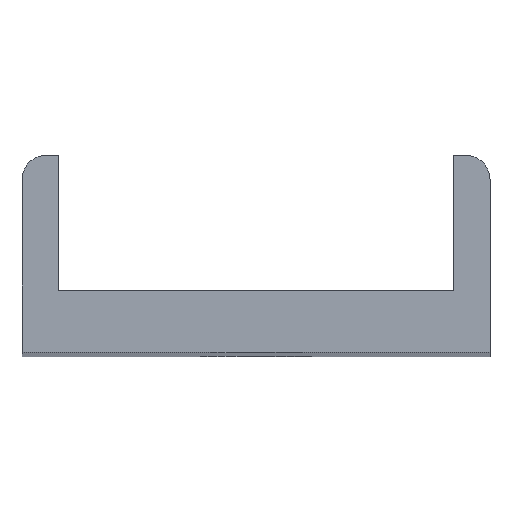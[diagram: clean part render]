
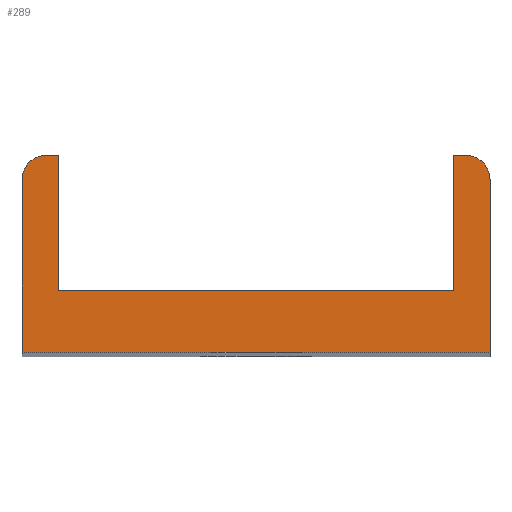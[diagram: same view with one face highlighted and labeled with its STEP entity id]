
A CAD part, top view. The second image highlights one B-rep face of the part: STEP entity #289.
In plain terms, the highlighted planar face has unit normal (0, 0, 1).
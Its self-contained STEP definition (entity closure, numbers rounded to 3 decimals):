
#21=LINE('',#412,#47);
#25=LINE('',#432,#51);
#29=LINE('',#444,#55);
#32=LINE('',#448,#58);
#34=LINE('',#453,#60);
#37=LINE('',#459,#63);
#41=LINE('',#471,#67);
#44=LINE('',#475,#70);
#47=VECTOR('',#331,16.);
#51=VECTOR('',#351,7.);
#55=VECTOR('',#363,0.5);
#58=VECTOR('',#368,5.5);
#60=VECTOR('',#372,5.5);
#63=VECTOR('',#377,0.5);
#67=VECTOR('',#389,7.);
#70=VECTOR('',#394,19.);
#79=PLANE('',#317);
#103=FACE_OUTER_BOUND('',#127,.T.);
#127=EDGE_LOOP('',(#253,#254,#255,#256,#257,#258,#259,#260,#261,#262));
#136=CIRCLE('',#307,1.);
#138=CIRCLE('',#314,1.);
#143=VERTEX_POINT('',#409);
#144=VERTEX_POINT('',#411);
#151=VERTEX_POINT('',#429);
#152=VERTEX_POINT('',#431);
#154=VERTEX_POINT('',#437);
#156=VERTEX_POINT('',#443);
#158=VERTEX_POINT('',#452);
#160=VERTEX_POINT('',#458);
#162=VERTEX_POINT('',#464);
#164=VERTEX_POINT('',#470);
#169=EDGE_CURVE('',#144,#143,#21,.T.);
#177=EDGE_CURVE('',#152,#151,#25,.T.);
#180=EDGE_CURVE('',#154,#152,#136,.T.);
#183=EDGE_CURVE('',#156,#154,#29,.T.);
#186=EDGE_CURVE('',#143,#156,#32,.T.);
#188=EDGE_CURVE('',#158,#144,#34,.T.);
#191=EDGE_CURVE('',#160,#158,#37,.T.);
#194=EDGE_CURVE('',#162,#160,#138,.T.);
#197=EDGE_CURVE('',#164,#162,#41,.T.);
#200=EDGE_CURVE('',#151,#164,#44,.T.);
#253=ORIENTED_EDGE('',*,*,#200,.T.);
#254=ORIENTED_EDGE('',*,*,#197,.T.);
#255=ORIENTED_EDGE('',*,*,#194,.T.);
#256=ORIENTED_EDGE('',*,*,#191,.T.);
#257=ORIENTED_EDGE('',*,*,#188,.T.);
#258=ORIENTED_EDGE('',*,*,#169,.T.);
#259=ORIENTED_EDGE('',*,*,#186,.T.);
#260=ORIENTED_EDGE('',*,*,#183,.T.);
#261=ORIENTED_EDGE('',*,*,#180,.T.);
#262=ORIENTED_EDGE('',*,*,#177,.T.);
#289=ADVANCED_FACE('',(#103),#79,.T.);
#307=AXIS2_PLACEMENT_3D('',#438,#357,#358);
#314=AXIS2_PLACEMENT_3D('',#465,#383,#384);
#317=AXIS2_PLACEMENT_3D('',#476,#395,#396);
#331=DIRECTION('',(-1.,0.,0.));
#351=DIRECTION('',(0.,-1.,0.));
#357=DIRECTION('center_axis',(0.,0.,1.));
#358=DIRECTION('ref_axis',(0.,1.,0.));
#363=DIRECTION('',(-1.,0.,0.));
#368=DIRECTION('',(0.,1.,0.));
#372=DIRECTION('',(0.,-1.,0.));
#377=DIRECTION('',(-1.,0.,0.));
#383=DIRECTION('center_axis',(0.,0.,1.));
#384=DIRECTION('ref_axis',(1.,0.,0.));
#389=DIRECTION('',(0.,1.,0.));
#394=DIRECTION('',(1.,0.,0.));
#395=DIRECTION('center_axis',(0.,0.,1.));
#396=DIRECTION('ref_axis',(1.,0.,0.));
#409=CARTESIAN_POINT('',(1.5,2.5,110.));
#411=CARTESIAN_POINT('',(17.5,2.5,110.));
#412=CARTESIAN_POINT('',(17.5,2.5,110.));
#429=CARTESIAN_POINT('',(0.,0.,110.));
#431=CARTESIAN_POINT('',(0.,7.,110.));
#432=CARTESIAN_POINT('',(0.,7.,110.));
#437=CARTESIAN_POINT('',(1.,8.,110.));
#438=CARTESIAN_POINT('Origin',(1.,7.,110.));
#443=CARTESIAN_POINT('',(1.5,8.,110.));
#444=CARTESIAN_POINT('',(1.5,8.,110.));
#448=CARTESIAN_POINT('',(1.5,2.5,110.));
#452=CARTESIAN_POINT('',(17.5,8.,110.));
#453=CARTESIAN_POINT('',(17.5,8.,110.));
#458=CARTESIAN_POINT('',(18.,8.,110.));
#459=CARTESIAN_POINT('',(18.,8.,110.));
#464=CARTESIAN_POINT('',(19.,7.,110.));
#465=CARTESIAN_POINT('Origin',(18.,7.,110.));
#470=CARTESIAN_POINT('',(19.,0.,110.));
#471=CARTESIAN_POINT('',(19.,0.,110.));
#475=CARTESIAN_POINT('',(0.,0.,110.));
#476=CARTESIAN_POINT('Origin',(9.5,2.727,110.));
